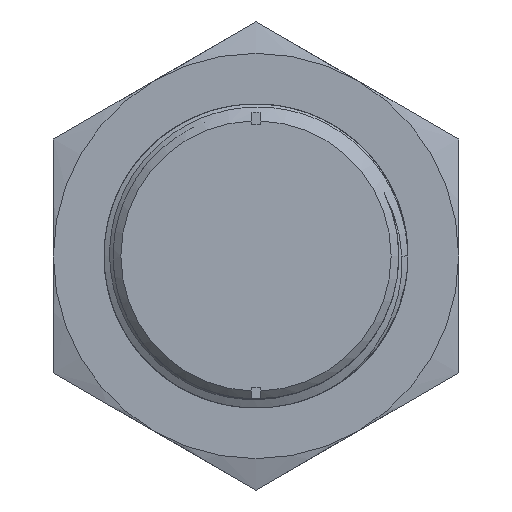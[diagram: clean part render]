
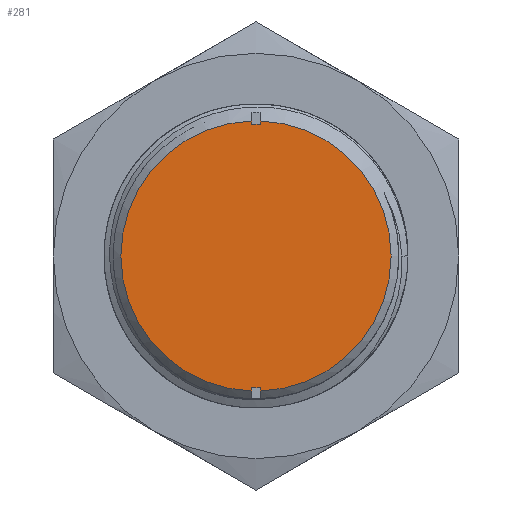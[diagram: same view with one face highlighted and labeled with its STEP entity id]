
A CAD part, front view. The second image highlights one B-rep face of the part: STEP entity #281.
In plain terms, the highlighted planar face has unit normal (0, -1, 0).
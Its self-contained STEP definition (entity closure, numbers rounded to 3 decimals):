
#78=LINE('',#7953,#128);
#82=LINE('',#7960,#132);
#86=LINE('',#7969,#136);
#89=LINE('',#7977,#139);
#93=LINE('',#7989,#143);
#97=LINE('',#7998,#147);
#128=VECTOR('',#1137,1.);
#132=VECTOR('',#1143,1.);
#136=VECTOR('',#1149,1.);
#139=VECTOR('',#1158,1.);
#143=VECTOR('',#1170,1.);
#147=VECTOR('',#1182,1.);
#205=FACE_OUTER_BOUND('',#400,.T.);
#281=ADVANCED_FACE('',(#205),#336,.T.);
#336=PLANE('',#1035);
#400=EDGE_LOOP('',(#534,#535,#536,#537,#538,#539,#540,#541,#542));
#534=ORIENTED_EDGE('',*,*,#872,.T.);
#535=ORIENTED_EDGE('',*,*,#843,.F.);
#536=ORIENTED_EDGE('',*,*,#842,.F.);
#537=ORIENTED_EDGE('',*,*,#849,.T.);
#538=ORIENTED_EDGE('',*,*,#853,.T.);
#539=ORIENTED_EDGE('',*,*,#867,.T.);
#540=ORIENTED_EDGE('',*,*,#866,.F.);
#541=ORIENTED_EDGE('',*,*,#861,.T.);
#542=ORIENTED_EDGE('',*,*,#857,.T.);
#746=VERTEX_POINT('',#7937);
#747=VERTEX_POINT('',#7939);
#748=VERTEX_POINT('',#7941);
#753=VERTEX_POINT('',#7952);
#755=VERTEX_POINT('',#7959);
#756=VERTEX_POINT('',#7963);
#759=VERTEX_POINT('',#7968);
#762=VERTEX_POINT('',#7978);
#764=VERTEX_POINT('',#7984);
#842=EDGE_CURVE('',#746,#747,#972,.T.);
#843=EDGE_CURVE('',#747,#748,#973,.T.);
#849=EDGE_CURVE('',#746,#753,#78,.T.);
#853=EDGE_CURVE('',#753,#755,#82,.T.);
#857=EDGE_CURVE('',#756,#759,#86,.T.);
#861=EDGE_CURVE('',#762,#756,#89,.T.);
#866=EDGE_CURVE('',#762,#764,#978,.T.);
#867=EDGE_CURVE('',#755,#764,#93,.T.);
#872=EDGE_CURVE('',#759,#748,#97,.T.);
#972=CIRCLE('',#1016,8.);
#973=CIRCLE('',#1017,8.);
#978=CIRCLE('',#1028,8.);
#1016=AXIS2_PLACEMENT_3D('',#7938,#1124,#1125);
#1017=AXIS2_PLACEMENT_3D('',#7940,#1126,#1127);
#1028=AXIS2_PLACEMENT_3D('',#7987,#1166,#1167);
#1035=AXIS2_PLACEMENT_3D('',#8000,#1185,#1186);
#1124=DIRECTION('',(0.,1.,0.));
#1125=DIRECTION('',(0.031,0.,1.));
#1126=DIRECTION('',(0.,1.,0.));
#1127=DIRECTION('',(1.,0.,0.));
#1137=DIRECTION('',(0.,0.,-1.));
#1143=DIRECTION('',(-1.,0.,0.));
#1149=DIRECTION('',(1.,0.,0.));
#1158=DIRECTION('',(0.,0.,1.));
#1166=DIRECTION('',(0.,1.,0.));
#1167=DIRECTION('',(-0.031,0.,-1.));
#1170=DIRECTION('',(0.,0.,1.));
#1182=DIRECTION('',(0.,0.,-1.));
#1185=DIRECTION('',(0.,-1.,0.));
#1186=DIRECTION('',(0.,0.,1.));
#7937=CARTESIAN_POINT('',(0.25,0.,7.996));
#7938=CARTESIAN_POINT('',(0.,0.,0.));
#7939=CARTESIAN_POINT('',(8.,0.,0.));
#7940=CARTESIAN_POINT('',(0.,0.,
0.));
#7941=CARTESIAN_POINT('',(0.25,0.,-7.996));
#7952=CARTESIAN_POINT('',(0.25,0.,7.8));
#7953=CARTESIAN_POINT('',(0.25,0.,7.996));
#7959=CARTESIAN_POINT('',(-0.25,0.,7.8));
#7960=CARTESIAN_POINT('',(0.25,0.,7.8));
#7963=CARTESIAN_POINT('',(-0.25,0.,-7.8));
#7968=CARTESIAN_POINT('',(0.25,0.,-7.8));
#7969=CARTESIAN_POINT('',(-0.25,0.,-7.8));
#7977=CARTESIAN_POINT('',(-0.25,0.,-7.996));
#7978=CARTESIAN_POINT('',(-0.25,0.,-7.996));
#7984=CARTESIAN_POINT('',(-0.25,0.,7.996));
#7987=CARTESIAN_POINT('',(0.,0.,0.));
#7989=CARTESIAN_POINT('',(-0.25,0.,7.8));
#7998=CARTESIAN_POINT('',(0.25,0.,-7.8));
#8000=CARTESIAN_POINT('',(8.8,0.,-8.8));
